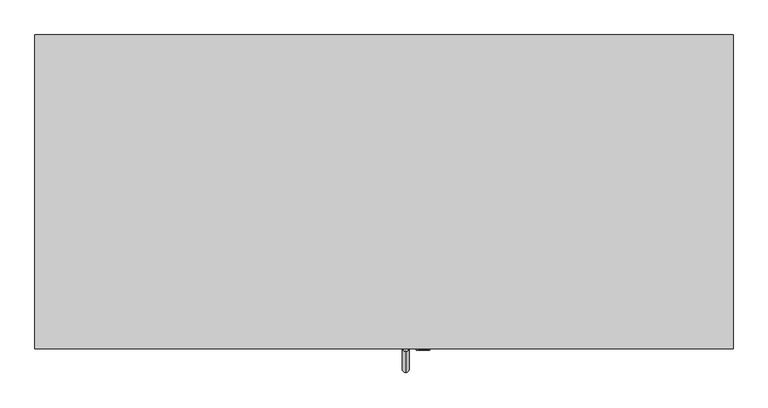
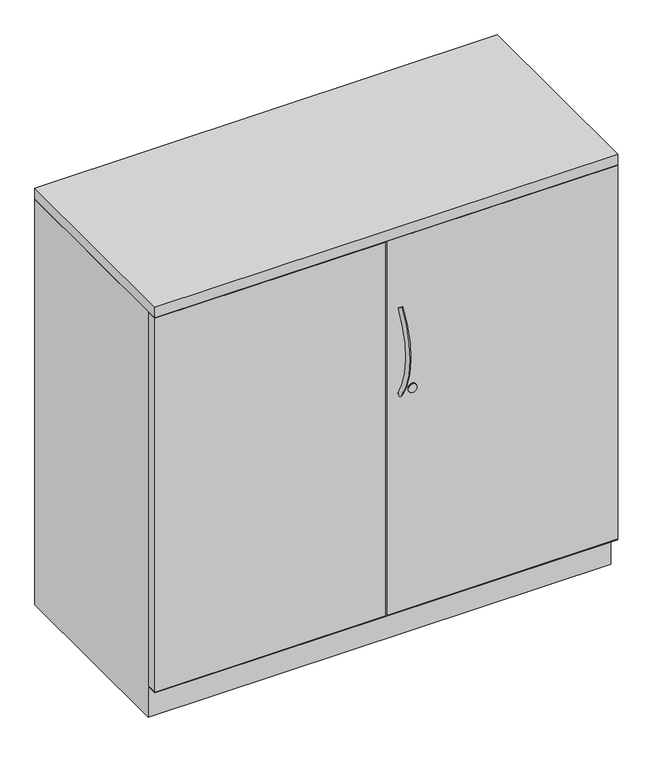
"""IFC4 building model written with IfcOpenShell, lengths in millimetres: furniture geometry, Steelcase - Universal Storage - Cabinet - Storage - 40H-52H - Proud Steel : 40H x 18D x 42W."""

import ifcopenshell
import ifcopenshell.guid

model = None  # the IFC model being written
_history = None  # IfcOwnerHistory: only IFC2X3 demands one
_inside = {}  # id of a spatial element -> (the spatial element, [elements in it])
_under = {}  # id of a project, library or spatial element -> (it, [spatial elements below it])
_declared = {}  # id of a project -> (the project, [libraries it declares])
_typed = {}  # id of a type object -> (the type object, [elements of that type])
_made_of = {}  # id of a material, layer set ... -> (it, [elements and type objects made of it])


def new_model(schema):
    """Start an empty IFC model of exactly this schema.

    Asked for "IFC4X3", IfcOpenShell would pick the latest addendum, in which some entities
    have other attributes; the version numbers below select the first issue.
    IFC2X3 requires an IfcOwnerHistory on every rooted entity: one is made here for all.
    """
    global model, _history
    if schema == "IFC4X3":
        model = ifcopenshell.file(schema_version=(4, 3, 0, 0))
    else:
        model = ifcopenshell.file(schema=schema)
    _inside.clear()
    _under.clear()
    _declared.clear()
    _typed.clear()
    _made_of.clear()
    _history = None
    if model.schema == "IFC2X3":
        org = make("IfcOrganization", Name="unknown")
        user = make(
            "IfcPersonAndOrganization",
            ThePerson=make("IfcPerson", FamilyName="unknown"),
            TheOrganization=org,
        )
        app = make(
            "IfcApplication",
            ApplicationDeveloper=org,
            Version="unknown",
            ApplicationFullName="unknown",
            ApplicationIdentifier="unknown",
        )
        _history = make(
            "IfcOwnerHistory",
            OwningUser=user,
            OwningApplication=app,
            ChangeAction="ADDED",
            CreationDate=0,
        )
    return model


def make(cls, **values):
    """One entity of the class cls with the attributes given. An attribute that is None is left unset."""
    return model.create_entity(
        cls, **{name: value for name, value in values.items() if value is not None}
    )


def rooted(cls, **values):
    """An entity with a GlobalId (a new one), such as an element, a storey or a relation."""
    return make(cls, GlobalId=ifcopenshell.guid.new(), OwnerHistory=_history, **values)


def si_unit(unit_type, name, prefix=None):
    """IfcSIUnit, for example si_unit("LENGTHUNIT", "METRE", prefix="MILLI")."""
    return make("IfcSIUnit", UnitType=unit_type, Prefix=prefix, Name=name)


def assignment(units):
    """IfcUnitAssignment: the units of a project."""
    return None if units is None else make("IfcUnitAssignment", Units=units)


def point(xyz):
    """IfcCartesianPoint."""
    return None if xyz is None else make("IfcCartesianPoint", Coordinates=xyz)


def direction(xyz):
    """IfcDirection."""
    return None if xyz is None else make("IfcDirection", DirectionRatios=xyz)


def frame(location, z_axis=None, x_axis=None):
    """IfcAxis2Placement3D, a coordinate frame: its origin and axes. An axis left out is left unset."""
    return make(
        "IfcAxis2Placement3D",
        Location=point(location),
        Axis=direction(z_axis),
        RefDirection=direction(x_axis),
    )


def frame_2d(location, x_axis=None):
    """IfcAxis2Placement2D, a coordinate frame in the plane: its origin and x axis."""
    return make(
        "IfcAxis2Placement2D", Location=point(location), RefDirection=direction(x_axis)
    )


def origin():
    """The frame at (0, 0, 0) with its axes left unset."""
    return frame((0.0, 0.0, 0.0))


def place(relative_to, where):
    """IfcLocalPlacement: puts the frame where relative to a parent placement (None: the world)."""
    return make(
        "IfcLocalPlacement", PlacementRelTo=relative_to, RelativePlacement=where
    )


def context(
    kind, dimensions, precision=None, world=None, true_north=None, identifier=None
):
    """IfcGeometricRepresentationContext, for example the 3D "Model" context."""
    return make(
        "IfcGeometricRepresentationContext",
        ContextIdentifier=identifier,
        ContextType=kind,
        CoordinateSpaceDimension=dimensions,
        Precision=precision,
        WorldCoordinateSystem=world,
        TrueNorth=true_north,
    )


def project(units=None, contexts=None):
    """IfcProject with its units and contexts."""
    return rooted(
        "IfcProject",
        Name="project",
        RepresentationContexts=contexts,
        UnitsInContext=assignment(units),
    )


def spatial(cls, under=None, at=None, **own):
    """A site, building, storey or space (cls), placed at a placement, below another one or the project."""
    s = rooted(cls, ObjectPlacement=at, **own)
    if under is not None:
        _under.setdefault(under.id(), (under, []))[1].append(s)
    return s


def polyline(points):
    """IfcPolyline through the points."""
    return make("IfcPolyline", Points=[point(p) for p in points])


def circle_curve(where, radius):
    """IfcCircle in the frame where."""
    return make("IfcCircle", Position=where, Radius=radius)


def ellipse_curve(where, semi_axis1, semi_axis2):
    """IfcEllipse in the frame where."""
    return make(
        "IfcEllipse", Position=where, SemiAxis1=semi_axis1, SemiAxis2=semi_axis2
    )


def trimmed(basis, trim1, trim2, sense, master):
    """IfcTrimmedCurve: the piece of a basis curve between two trims."""
    return make(
        "IfcTrimmedCurve",
        BasisCurve=basis,
        Trim1=trim1,
        Trim2=trim2,
        SenseAgreement=sense,
        MasterRepresentation=master,
    )


def segment(curve, same_sense, transition):
    """IfcCompositeCurveSegment."""
    return make(
        "IfcCompositeCurveSegment",
        Transition=transition,
        SameSense=same_sense,
        ParentCurve=curve,
    )


def composite_curve(segments, self_intersect=None):
    """IfcCompositeCurve: segments joined end to end."""
    return make("IfcCompositeCurve", Segments=segments, SelfIntersect=self_intersect)


def outline(outer, holes=None, kind="AREA"):
    """IfcArbitraryClosedProfileDef: a profile drawn as a closed curve; with holes, ...WithVoids."""
    if holes is None:
        return make("IfcArbitraryClosedProfileDef", ProfileType=kind, OuterCurve=outer)
    return make(
        "IfcArbitraryProfileDefWithVoids",
        ProfileType=kind,
        OuterCurve=outer,
        InnerCurves=holes,
    )


def extrude(swept, where, along, depth):
    """IfcExtrudedAreaSolid: the profile swept, set in the frame where, extruded along a direction by depth."""
    return make(
        "IfcExtrudedAreaSolid",
        SweptArea=swept,
        Position=where,
        ExtrudedDirection=direction(along),
        Depth=depth,
    )


def faces_of(points, faces, orient=None, outer=None):
    """IfcFace entities. A face is a list of loops; a loop is a list of indices into points, from 0.

    orient and outer hold one flag for each loop. By default every Orientation is true, the
    first loop of a face is its IfcFaceOuterBound and the others are IfcFaceBound.
    """
    made = []
    for i, loops in enumerate(faces):
        bounds = []
        for j, loop in enumerate(loops):
            is_outer = j == 0 if outer is None else outer[i][j]
            bounds.append(
                make(
                    "IfcFaceOuterBound" if is_outer else "IfcFaceBound",
                    Bound=make("IfcPolyLoop", Polygon=[points[k] for k in loop]),
                    Orientation=True if orient is None else orient[i][j],
                )
            )
        made.append(make("IfcFace", Bounds=bounds))
    return made


def faceted_brep(points, faces, orient=None, outer=None, voids=None):
    """IfcFacetedBrep: a solid bounded by flat faces; with voids (closed shells), ...WithVoids."""
    shared = [point(p) for p in points]
    hull = make("IfcClosedShell", CfsFaces=faces_of(shared, faces, orient, outer))
    if voids is None:
        return make("IfcFacetedBrep", Outer=hull)
    return make(
        "IfcFacetedBrepWithVoids",
        Outer=hull,
        Voids=[
            make(cls, CfsFaces=faces_of(shared, fs, o, b)) for cls, fs, o, b in voids
        ],
    )


def shape(context_of_items, identifier, shape_type, items):
    """IfcShapeRepresentation: the items that make up one representation, for example the "Body"."""
    return make(
        "IfcShapeRepresentation",
        ContextOfItems=context_of_items,
        RepresentationIdentifier=identifier,
        RepresentationType=shape_type,
        Items=items,
    )


def source(mapping_origin, context_of_items, identifier, shape_type, items):
    """IfcRepresentationMap: a shape defined once, which mapped items show again and again."""
    return make(
        "IfcRepresentationMap",
        MappingOrigin=mapping_origin,
        MappedRepresentation=shape(context_of_items, identifier, shape_type, items),
    )


def transform(
    local_origin,
    x_axis=None,
    y_axis=None,
    z_axis=None,
    scale=None,
    scale2=None,
    scale3=None,
    uniform=True,
):
    """IfcCartesianTransformationOperator3D, or its non-uniform kind. x_axis, y_axis, z_axis: its Axis1, 2, 3."""
    if uniform:
        return make(
            "IfcCartesianTransformationOperator3D",
            Axis1=direction(x_axis),
            Axis2=direction(y_axis),
            LocalOrigin=point(local_origin),
            Scale=scale,
            Axis3=direction(z_axis),
        )
    return make(
        "IfcCartesianTransformationOperator3DnonUniform",
        Axis1=direction(x_axis),
        Axis2=direction(y_axis),
        LocalOrigin=point(local_origin),
        Scale=scale,
        Axis3=direction(z_axis),
        Scale2=scale2,
        Scale3=scale3,
    )


def mapped(mapping_source, mapping_target):
    """IfcMappedItem: shows the shape of a source again, moved by a transform."""
    return make(
        "IfcMappedItem", MappingSource=mapping_source, MappingTarget=mapping_target
    )


def made_of(thing, what):
    """Note that an element or type object is made of a material, layer set ...; save() writes the relation."""
    if what is not None:
        _made_of.setdefault(what.id(), (what, []))[1].append(thing)
    return thing


def element(
    cls,
    number,
    at=None,
    inside=None,
    cuts=None,
    type_object=None,
    material=None,
    context=None,
    identifier="Body",
    shape_type=None,
    held_by="IfcProductDefinitionShape",
    body=None,
    shapes=None,
    **own,
):
    """One element of the class cls, such as IfcWall. Its Tag is "e" and its number.

    at: its placement. inside: the storey or other place that contains it. cuts: it is an
    opening in that element (IfcRelVoidsElement). A single representation is given by context,
    identifier, shape_type and body (its items); several are given by shapes. held_by: the class
    of the entity that holds the representations. save() writes the other relations.
    """
    e = rooted(cls, Tag="e%d" % number, ObjectPlacement=at, **own)
    if body is not None:
        shapes = [shape(context, identifier, shape_type, body)]
    if shapes is not None:
        e.Representation = make(held_by, Representations=shapes)
    if inside is not None:
        _inside.setdefault(inside.id(), (inside, []))[1].append(e)
    if cuts is not None:
        rooted(
            "IfcRelVoidsElement", RelatingBuildingElement=cuts, RelatedOpeningElement=e
        )
    if type_object is not None:
        _typed.setdefault(type_object.id(), (type_object, []))[1].append(e)
    return made_of(e, material)


def aggregate(whole, parts):
    """IfcRelAggregates: a whole, such as a stair, and the parts it consists of."""
    return rooted("IfcRelAggregates", RelatingObject=whole, RelatedObjects=parts)


def save(model, path):
    """Write the relations noted so far, then the file.

    IfcRelAggregates (storeys below a building ...), IfcRelContainedInSpatialStructure (elements
    in a storey), IfcRelDefinesByType, IfcRelAssociatesMaterial and IfcRelDeclares: one each for
    every whole, place, type object, material and project.
    """
    for whole, parts in _under.values():
        aggregate(whole, parts)
    for where, things in _inside.values():
        rooted(
            "IfcRelContainedInSpatialStructure",
            RelatedElements=things,
            RelatingStructure=where,
        )
    for kind, things in _typed.values():
        rooted("IfcRelDefinesByType", RelatedObjects=things, RelatingType=kind)
    for what, things in _made_of.values():
        rooted("IfcRelAssociatesMaterial", RelatedObjects=things, RelatingMaterial=what)
    for by, libraries in _declared.values():
        rooted("IfcRelDeclares", RelatingContext=by, RelatedDefinitions=libraries)
    model.write(path)


def plane_surface(at):
    """IfcPlane: the flat surface through the origin of the frame at, square to its z axis."""
    return make("IfcPlane", Position=at)


def revolved_surface(curve, axis_point, axis_direction):
    """IfcSurfaceOfRevolution: the curve turned about the line through axis_point along axis_direction."""
    return make(
        "IfcSurfaceOfRevolution",
        SweptCurve=make("IfcArbitraryOpenProfileDef", ProfileType="CURVE", Curve=curve),
        AxisPosition=make("IfcAxis1Placement", Location=point(axis_point), Axis=direction(axis_direction)),
    )


def advanced_brep(points, edges, surfaces, faces):
    """IfcAdvancedBrep: a solid bounded by faces that lie on surfaces and meet in shared edges.

    An edge is (start, end): straight between two places in points (the first is 0);
    or (start, end, curve); or (start, end, curve, False) where it runs against its curve.
    A face is (place in surfaces, loops), or (place, loops, False) where it looks against
    its surface's normal. A loop lists edges by number (the first is 1), with a minus sign
    where the edge is run from its end to its start. The first loop is the outer one.
    """
    corners = [point(p) for p in points]
    vertices = [make("IfcVertexPoint", VertexGeometry=c) for c in corners]
    made = []
    for start, end, *more in edges:
        made.append(
            make(
                "IfcEdgeCurve",
                EdgeStart=vertices[start],
                EdgeEnd=vertices[end],
                EdgeGeometry=more[0] if more else make("IfcPolyline", Points=[corners[start], corners[end]]),
                SameSense=more[1] if len(more) > 1 else True,
            )
        )
    hull = []
    for where, loops, *sense in faces:
        bounds = []
        for j, loop in enumerate(loops):
            ring = [make("IfcOrientedEdge", EdgeElement=made[abs(k) - 1], Orientation=k > 0) for k in loop]
            bounds.append(
                make(
                    "IfcFaceOuterBound" if j == 0 else "IfcFaceBound",
                    Bound=make("IfcEdgeLoop", EdgeList=ring),
                    Orientation=True,
                )
            )
        hull.append(make("IfcAdvancedFace", Bounds=bounds, FaceSurface=surfaces[where], SameSense=sense[0] if sense else True))
    return make("IfcAdvancedBrep", Outer=make("IfcClosedShell", CfsFaces=hull))


def furniture_b461d35f(model_context):
    return source(origin(), model_context, "Body", "SolidModel", [
        extrude(outline(polyline([(1066.8, 0.0), (1066.8, -479.552), (0.0, -479.552), (0.0, 0.0), (1066.8, 0.0)])), frame((0.0, 0.0, 990.6), z_axis=(0.0, 0.0, 1.0), x_axis=(1.0, 0.0, 0.0)), (0.0, 0.0, 1.0), 25.4),
        extrude(outline(polyline([(0.0, -479.552), (0.0, -454.1528418), (530.86, -454.1528418), (530.86, -479.552), (0.0, -479.552)])), frame((0.0, 0.0, 77.724), z_axis=(0.0, 0.0, 1.0), x_axis=(1.0, 0.0, 0.0)), (0.0, 0.0, 1.0), 911.352),
        extrude(outline(polyline([(1066.8, -454.1528418), (1066.8, -479.552), (535.94, -479.552), (535.94, -454.1528418), (1066.8, -454.1528418)])), frame((0.0, 0.0, 77.724), z_axis=(0.0, 0.0, 1.0), x_axis=(1.0, 0.0, 0.0)), (0.0, 0.0, 1.0), 911.352),
        extrude(outline(composite_curve([segment(trimmed(circle_curve(frame_2d((612.902, 592.9418131)), 10.16), [point((612.902, 603.1018131))], [point((612.902, 582.7818131))], False, "CARTESIAN"), True, "CONTINUOUS"), segment(trimmed(circle_curve(frame_2d((612.902, 592.9418131)), 10.16), [point((612.902, 582.7818131))], [point((612.902, 603.1018131))], False, "CARTESIAN"), True, "CONTINUOUS")], self_intersect=False)), frame((0.0, -481.965031, 0.0), z_axis=(0.0, 1.0, 0.0), x_axis=(0.0, 0.0, 1.0)), (0.0, 0.0, 1.0), 2.413031),
        advanced_brep(
        [(566.4783765, -474.9744318, 814.9196018), (566.4783765, -483.5741633, 820.5900503), (566.4783765, -472.5471581, 607.1931915), (566.4783765, -481.0120418, 601.3233437)],
        [
            (0, 1, circle_curve(frame((566.4783765, -479.2742976, 817.7548261), z_axis=(0.0, 0.5504787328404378, 0.83484918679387), x_axis=(0.0, -0.83484918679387, 0.5504787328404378)), 5.1504701)),
            (1, 0, circle_curve(frame((566.4783765, -479.2742976, 817.7548261), z_axis=(0.0, 0.5504787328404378, 0.83484918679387), x_axis=(0.0, -0.83484918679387, 0.5504787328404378)), 5.1504701)),
            (2, 3, circle_curve(frame((566.4783765, -476.7796, 604.2582676), z_axis=(0.0, 0.5698361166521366, -0.8217583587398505), x_axis=(0.0, -0.8217583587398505, -0.5698361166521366)), 5.1504701)),
            (3, 2, circle_curve(frame((566.4783765, -476.7796, 604.2582676), z_axis=(0.0, 0.5698361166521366, -0.8217583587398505), x_axis=(0.0, -0.8217583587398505, -0.5698361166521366)), 5.1504701)),
            (3, 1, circle_curve(frame((566.4783765, -320.178461, 712.8509992), z_axis=(-1.0, 0.0, 0.0), x_axis=(0.0, -0.83484918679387, 0.5504787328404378)), 195.7188256)),
            (0, 2, circle_curve(frame((566.4783765, -320.178461, 712.8509992), z_axis=(1.0, 0.0, 0.0), x_axis=(0.0, -0.83484918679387, 0.5504787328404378)), 185.4178854)),
        ],
        [
            plane_surface(frame((566.4783765, -479.2742976, 817.7548261), z_axis=(0.0, 0.5504787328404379, 0.83484918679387), x_axis=(-1.0, 0.0, 0.0))),
            plane_surface(frame((566.4783765, -476.7796, 604.2582676), z_axis=(0.0, 0.5698361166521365, -0.8217583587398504), x_axis=(-1.0, 0.0, 0.0))),
            revolved_surface(trimmed(ellipse_curve(frame((566.4783765, -479.2742976, 817.7548261), z_axis=(0.0, 0.5504787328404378, 0.83484918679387), x_axis=(0.0, -0.83484918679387, 0.5504787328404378)), 5.1504701, 5.1504701), [point((566.4783765, -474.9744318, 814.9196018))], [point((566.4783765, -483.5741633, 820.5900503))], True, "CARTESIAN"), (566.4783765, -320.178461, 712.8509992), (1.0, 0.0, 0.0)),
            revolved_surface(trimmed(ellipse_curve(frame((566.4783765, -479.2742976, 817.7548261), z_axis=(0.0, 0.5504787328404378, 0.83484918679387), x_axis=(0.0, -0.83484918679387, 0.5504787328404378)), 5.1504701, 5.1504701), [point((566.4783765, -483.5741633, 820.5900503))], [point((566.4783765, -474.9744318, 814.9196018))], True, "CARTESIAN"), (566.4783765, -320.178461, 712.8509992), (1.0, 0.0, 0.0)),
        ],
        [
            (0, [[1, 2]]),
            (1, [[3, 4]]),
            (2, [[5, -1, 6, -4]]),
            (3, [[-6, -2, -5, -3]]),
        ],
    ),
        extrude(outline(composite_curve([segment(trimmed(circle_curve(frame_2d((614.5669832, 593.2109835)), 9.7167829), [point((614.5669832, 602.9277664))], [point((614.5669832, 583.4942006))], False, "CARTESIAN"), True, "CONTINUOUS"), segment(trimmed(circle_curve(frame_2d((614.5669832, 593.2109835)), 9.7167829), [point((614.5669832, 583.4942006))], [point((614.5669832, 602.9277664))], False, "CARTESIAN"), True, "CONTINUOUS")], self_intersect=False)), frame((0.0, -480.2215275, 0.0), z_axis=(0.0, 1.0, 0.0), x_axis=(0.0, 0.0, 1.0)), (0.0, 0.0, 1.0), 0.6695275),
        faceted_brep([(1066.8, 0.0, 0.0), (1066.8, -452.6288432, 0.0), (0.0, -452.6288432, 0.0), (0.0, 0.0, 0.0), (0.0, 0.0, 989.076), (1066.8, 0.0, 989.076), (0.0, -452.6288432, 76.2), (0.0, -479.552, 76.2), (0.0, -479.552, 77.724), (0.0, -452.6288432, 77.724), (0.0, -452.6288432, 989.076), (1066.8, -452.6288432, 76.2), (1066.8, -452.6288432, 989.076), (1066.8, -452.6288432, 77.724), (1066.8, -479.4258418, 77.724), (1066.8, -479.552, 76.2), (1041.4000242, -25.4000008, 989.076), (1041.4000242, -452.6288432, 989.076), (25.3999758, -452.6288432, 989.076), (25.3999758, -25.4000008, 989.076), (1041.4000242, -25.4000008, 77.724), (1041.4000242, -452.6288432, 77.724), (25.3999758, -452.6288432, 77.724), (25.3999758, -25.4000008, 77.724), (4.6981334, -454.1528418, 77.724), (1041.4000242, -454.1528418, 77.724)], [[[0, 1, 2, 3]], [[0, 3, 4, 5]], [[4, 3, 2, 6, 7, 8, 9, 10]], [[2, 1, 11, 6]], [[1, 0, 5, 12, 13, 14, 15, 11]], [[16, 17, 12, 5, 4, 10, 18, 19]], [[17, 16, 20, 21]], [[12, 17, 21, 13]], [[18, 10, 9, 22]], [[19, 18, 22, 23]], [[16, 19, 23, 20]], [[8, 24, 25, 14, 13, 21, 20, 23, 22, 9]], [[15, 7, 6, 11]], [[24, 8, 7]], [[25, 24, 7, 15]], [[14, 25, 15]]]),
    ])


if __name__ == "__main__":
    model = new_model("IFC4")
    model_context = context("Model", 3, world=origin())
    ifc_project = project(units=[si_unit("LENGTHUNIT", "METRE", prefix="MILLI")], contexts=[model_context])
    site = spatial("IfcSite", under=ifc_project)
    building = spatial("IfcBuilding", under=site)
    placement = place(None, origin())
    furniture_shape = furniture_b461d35f(model_context)
    element("IfcFurniture", 1, ObjectType="Steelcase - Universal Storage - Cabinet - Storage - 40H-52H - Proud Steel : 40H x 18D x 42W", at=placement, inside=building, context=model_context, shape_type="MappedRepresentation", body=[
        mapped(furniture_shape, transform((0.0, 0.0, 0.0), x_axis=(1.0, 0.0, 0.0), y_axis=(0.0, 1.0, 0.0), z_axis=(0.0, 0.0, 1.0))),
    ])
    save(model, "model.ifc")
